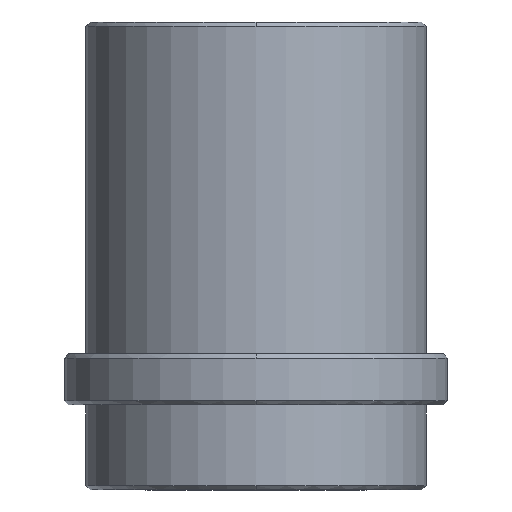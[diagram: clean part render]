
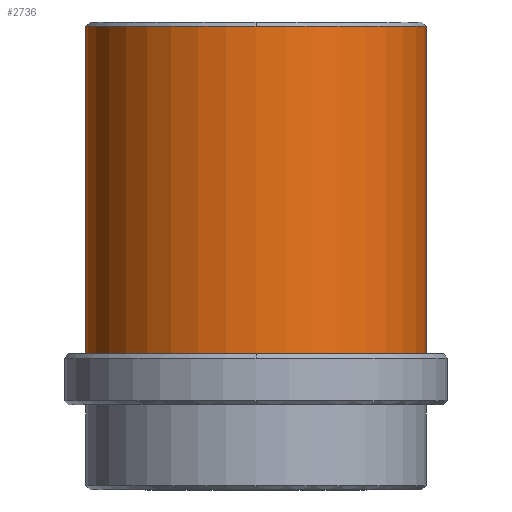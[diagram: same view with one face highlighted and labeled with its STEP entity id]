
A CAD part, front view. The second image highlights one B-rep face of the part: STEP entity #2736.
In plain terms, the highlighted cylindrical face has radius 20 mm (diameter 40 mm), a partial arc.
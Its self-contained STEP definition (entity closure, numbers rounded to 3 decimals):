
#2557=CARTESIAN_POINT('Vertex',(20.,0.,44.5)) ;
#2581=CARTESIAN_POINT('Vertex',(-20.,0.,44.5)) ;
#2605=CARTESIAN_POINT('Vertex',(0.,-20.,44.5)) ;
#2608=CARTESIAN_POINT('Axis2P3D Location',(0.,0.,44.5)) ;
#2625=CARTESIAN_POINT('Axis2P3D Location',(0.,0.,44.5)) ;
#2692=CARTESIAN_POINT('Line Origine',(20.,0.,-12.75)) ;
#2696=CARTESIAN_POINT('Vertex',(20.,0.,6.)) ;
#2703=CARTESIAN_POINT('Vertex',(-20.,0.,6.)) ;
#2706=CARTESIAN_POINT('Line Origine',(-20.,0.,-12.75)) ;
#2719=CARTESIAN_POINT('Axis2P3D Location',(0.,0.,-12.75)) ;
#2724=CARTESIAN_POINT('Axis2P3D Location',(0.,0.,6.)) ;
#2609=DIRECTION('Axis2P3D Direction',(0.,0.,-1.)) ;
#2626=DIRECTION('Axis2P3D Direction',(0.,0.,-1.)) ;
#2693=DIRECTION('Vector Direction',(0.,0.,1.)) ;
#2707=DIRECTION('Vector Direction',(0.,0.,1.)) ;
#2720=DIRECTION('Axis2P3D Direction',(0.,0.,1.)) ;
#2721=DIRECTION('Axis2P3D XDirection',(-1.,0.,0.)) ;
#2725=DIRECTION('Axis2P3D Direction',(0.,0.,1.)) ;
#2610=AXIS2_PLACEMENT_3D('Circle Axis2P3D',#2608,#2609,$) ;
#2627=AXIS2_PLACEMENT_3D('Circle Axis2P3D',#2625,#2626,$) ;
#2722=AXIS2_PLACEMENT_3D('Cylinder Axis2P3D',#2719,#2720,#2721) ;
#2726=AXIS2_PLACEMENT_3D('Circle Axis2P3D',#2724,#2725,$) ;
#2730=ORIENTED_EDGE('',*,*,#2710,.T.) ;
#2731=ORIENTED_EDGE('',*,*,#2728,.F.) ;
#2732=ORIENTED_EDGE('',*,*,#2698,.F.) ;
#2733=ORIENTED_EDGE('',*,*,#2629,.T.) ;
#2734=ORIENTED_EDGE('',*,*,#2612,.T.) ;
#2694=VECTOR('Line Direction',#2693,1.) ;
#2708=VECTOR('Line Direction',#2707,1.) ;
#2736=ADVANCED_FACE('MANIFOLD_SOLID_BREP #2368',(#2735),#2723,.T.) ;
#2611=CIRCLE('generated circle',#2610,20.) ;
#2628=CIRCLE('generated circle',#2627,20.) ;
#2727=CIRCLE('generated circle',#2726,20.) ;
#2723=CYLINDRICAL_SURFACE('generated cylinder',#2722,20.) ;
#2612=EDGE_CURVE('',#2606,#2582,#2611,.T.) ;
#2629=EDGE_CURVE('',#2558,#2606,#2628,.T.) ;
#2698=EDGE_CURVE('',#2558,#2697,#2695,.F.) ;
#2710=EDGE_CURVE('',#2582,#2704,#2709,.F.) ;
#2728=EDGE_CURVE('',#2697,#2704,#2727,.F.) ;
#2729=EDGE_LOOP('',(#2730,#2731,#2732,#2733,#2734)) ;
#2735=FACE_OUTER_BOUND('',#2729,.T.) ;
#2695=LINE('Line',#2692,#2694) ;
#2709=LINE('Line',#2706,#2708) ;
#2558=VERTEX_POINT('',#2557) ;
#2582=VERTEX_POINT('',#2581) ;
#2606=VERTEX_POINT('',#2605) ;
#2697=VERTEX_POINT('',#2696) ;
#2704=VERTEX_POINT('',#2703) ;
